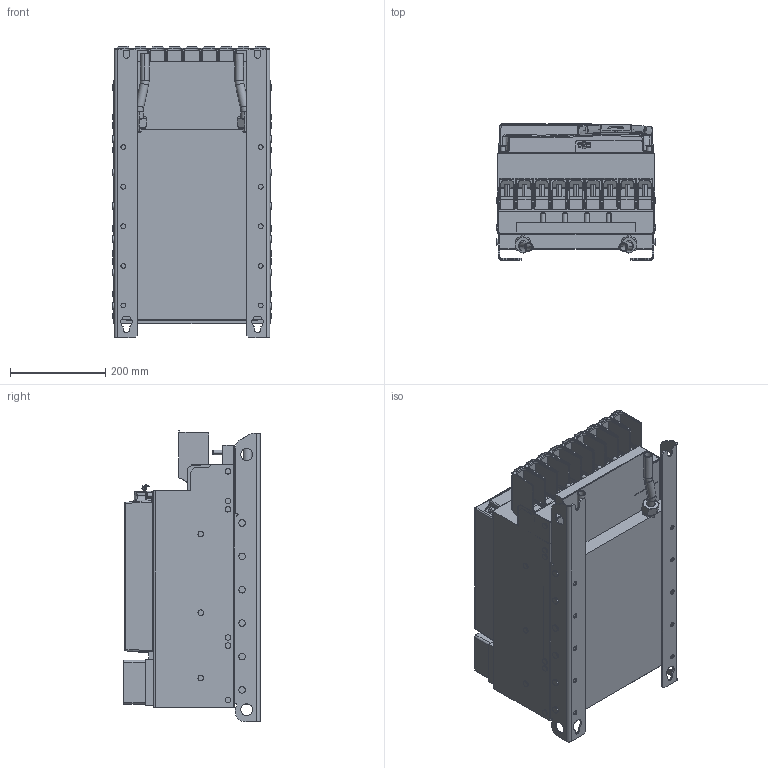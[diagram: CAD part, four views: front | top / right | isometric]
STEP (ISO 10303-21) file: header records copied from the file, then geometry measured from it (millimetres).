
FILE_DESCRIPTION (( 'STEP AP214' ), '1' );
FILE_NAME ('10078327_000.STEP', '2023-11-20T07:57:54', ( '' ), ( '' ), 'SwSTEP 2.0', 'SolidWorks 2022', '' );
FILE_SCHEMA (( 'AUTOMOTIVE_DESIGN' ));
Length unit declared in the file: millimetre
Products named in the file (13): Kundenmodell^10045475_000_Gehäusebaugruppe ohne Lüfterkarte; 10045475_000_Gehäusebaugruppe F6-7 (Kundenmodell); 10077759_000_ Leistungsteil F6-7 TW0 (Kundenmodell); Kundenmodell^10043622_000; Kundenmodell^10035735_000; 10078327_000; Kundenmodell^10059764_000; 10043622_000_70F6 Klemme (Kundenmodell); 10061502_000_Deckel (Kundenmodell); Kundenmodell ohne Zubehör^10077759_000; 10035735_000_Kundenmodell; Kundenmodell^10061502_000; 10059764_000_Blindabdeckung (Kundenmodell)
Assembly tree (12 placements, depth 4):
  10078327_000
    10077759_000_ Leistungsteil F6-7 TW0 (Kundenmodell)
      10043622_000_70F6 Klemme (Kundenmodell)
        Kundenmodell^10043622_000
      Kundenmodell ohne Zubehör^10077759_000
    10045475_000_Gehäusebaugruppe F6-7 (Kundenmodell)
      10061502_000_Deckel (Kundenmodell)
        Kundenmodell^10061502_000
      Kundenmodell^10045475_000_Gehäusebaugruppe ohne Lüfterkarte
    10035735_000_Kundenmodell
      10059764_000_Blindabdeckung (Kundenmodell)
        Kundenmodell^10059764_000
      Kundenmodell^10035735_000
Bounding box: 335.4 x 285.9 x 610.76 mm (x, y, z)
Volume: 41229408.1 mm3; surface area: 2159624 mm2
Topology: 12 solids, 22 shells, 3474 faces, 8910 edges, 5498 vertices
Faces by surface type: plane 1717, cylinder 1060, bspline 281, sphere 172, cone 155, torus 89
Entity records: 112027 total; most frequent: CARTESIAN_POINT 30172, ORIENTED_EDGE 17600, DIRECTION 16097, EDGE_CURVE 8800, VERTEX_POINT 5495, VECTOR 5395, LINE 5395, AXIS2_PLACEMENT_3D 5351
